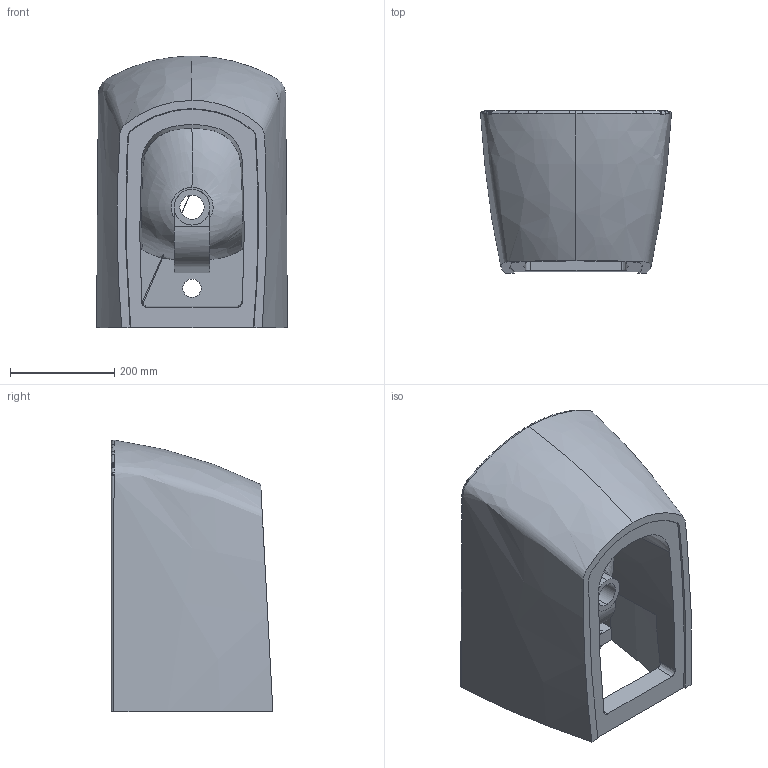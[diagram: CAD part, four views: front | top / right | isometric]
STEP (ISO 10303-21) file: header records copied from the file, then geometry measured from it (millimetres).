
FILE_DESCRIPTION (( 'STEP AP203' ), '1' );
FILE_NAME ('EG510-00CB00E-0000.STEP', '2023-07-11T11:33:05', ( '' ), ( '' ), 'SwSTEP 2.0', 'SolidWorks 2023', '' );
FILE_SCHEMA (( 'CONFIG_CONTROL_DESIGN' ));
Length unit declared in the file: millimetre
Products named in the file (1): EG510-00CB00E-0000
Bounding box: 365.27 x 309.78 x 520.31 mm (x, y, z)
Volume: 22197730.3 mm3; surface area: 1102993.8 mm2
Topology: 2 solids, 2 shells, 181 faces, 531 edges, 354 vertices
Faces by surface type: bspline 93, plane 44, cylinder 42, cone 2
Entity records: 76184 total; most frequent: CARTESIAN_POINT 72061, ORIENTED_EDGE 1062, DIRECTION 568, EDGE_CURVE 531, VERTEX_POINT 354, B_SPLINE_CURVE_WITH_KNOTS 238, AXIS2_PLACEMENT_3D 217, EDGE_LOOP 193
